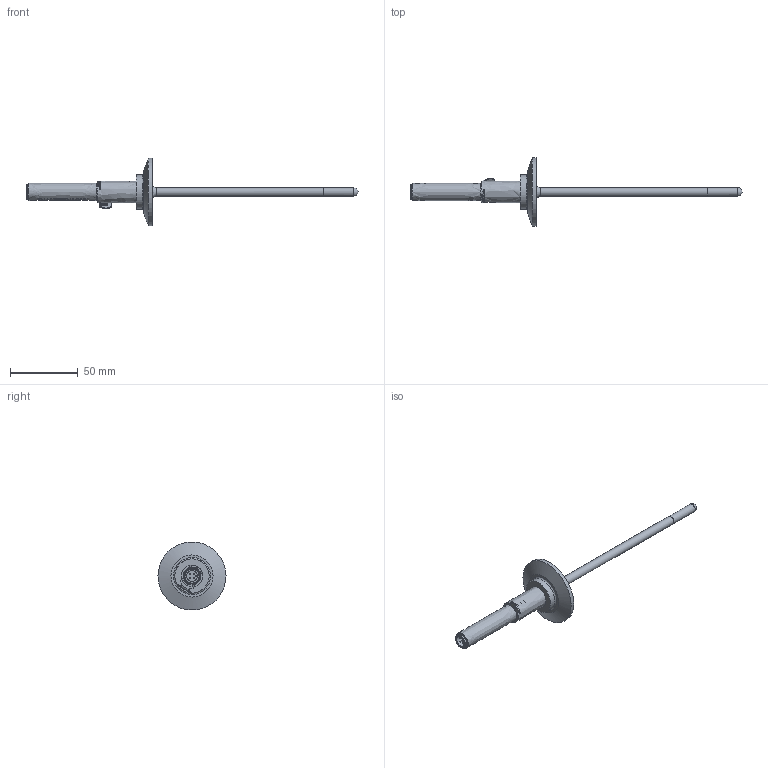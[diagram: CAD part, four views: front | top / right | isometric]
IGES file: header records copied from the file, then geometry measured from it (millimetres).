
Global section: file name: ReoClick-M12-IGS; native system: Autodesk Inventor 2014; preprocessor: unknown; author: Charles; date: 20151111.131402; units: inch
Bounding box: 245.92 x 50.39 x 50.34 mm (x, y, z)
Volume: 22199.6 mm3; surface area: 18055.1 mm2
Topology: 1 solids, 3 shells, 370 faces, 986 edges, 668 vertices
Faces by surface type: bspline 370
